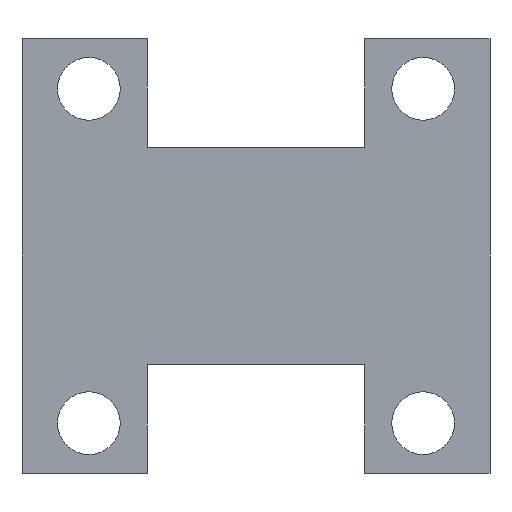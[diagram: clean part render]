
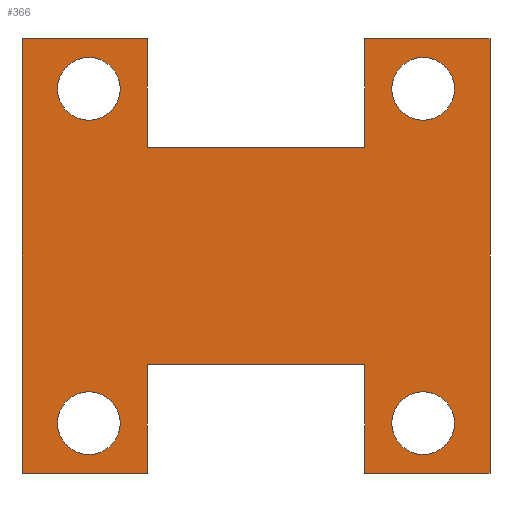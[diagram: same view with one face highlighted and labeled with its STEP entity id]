
A CAD part, front view. The second image highlights one B-rep face of the part: STEP entity #366.
In plain terms, the highlighted planar face has unit normal (0, -1, 0).
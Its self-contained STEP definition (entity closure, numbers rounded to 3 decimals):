
#19=FACE_BOUND('',#75,.T.);
#20=FACE_BOUND('',#76,.T.);
#21=FACE_BOUND('',#77,.T.);
#22=FACE_BOUND('',#78,.T.);
#24=CIRCLE('',#396,1.875);
#26=CIRCLE('',#399,1.875);
#28=CIRCLE('',#407,1.875);
#30=CIRCLE('',#410,1.875);
#52=FACE_OUTER_BOUND('',#74,.T.);
#74=EDGE_LOOP('',(#319,#320,#321,#322,#323,#324,#325,#326,#327,#328,#329,
#330));
#75=EDGE_LOOP('',(#331));
#76=EDGE_LOOP('',(#332));
#77=EDGE_LOOP('',(#333));
#78=EDGE_LOOP('',(#334));
#79=LINE('',#514,#119);
#83=LINE('',#523,#123);
#89=LINE('',#534,#129);
#90=LINE('',#537,#130);
#95=LINE('',#555,#135);
#98=LINE('',#561,#138);
#101=LINE('',#566,#141);
#105=LINE('',#573,#145);
#106=LINE('',#576,#146);
#111=LINE('',#594,#151);
#114=LINE('',#600,#154);
#117=LINE('',#605,#157);
#119=VECTOR('',#420,10.);
#123=VECTOR('',#426,10.);
#129=VECTOR('',#434,10.);
#130=VECTOR('',#437,10.);
#135=VECTOR('',#456,10.);
#138=VECTOR('',#461,10.);
#141=VECTOR('',#466,10.);
#145=VECTOR('',#472,10.);
#146=VECTOR('',#475,10.);
#151=VECTOR('',#494,10.);
#154=VECTOR('',#499,10.);
#157=VECTOR('',#504,10.);
#159=VERTEX_POINT('',#512);
#160=VERTEX_POINT('',#513);
#163=VERTEX_POINT('',#521);
#164=VERTEX_POINT('',#522);
#168=VERTEX_POINT('',#532);
#169=VERTEX_POINT('',#536);
#172=VERTEX_POINT('',#544);
#174=VERTEX_POINT('',#550);
#175=VERTEX_POINT('',#554);
#177=VERTEX_POINT('',#560);
#180=VERTEX_POINT('',#571);
#181=VERTEX_POINT('',#575);
#184=VERTEX_POINT('',#583);
#186=VERTEX_POINT('',#589);
#187=VERTEX_POINT('',#593);
#189=VERTEX_POINT('',#599);
#191=EDGE_CURVE('',#159,#160,#79,.T.);
#195=EDGE_CURVE('',#163,#164,#83,.T.);
#201=EDGE_CURVE('',#168,#159,#89,.T.);
#202=EDGE_CURVE('',#164,#169,#90,.T.);
#207=EDGE_CURVE('',#172,#172,#24,.T.);
#210=EDGE_CURVE('',#174,#174,#26,.T.);
#211=EDGE_CURVE('',#175,#168,#95,.T.);
#214=EDGE_CURVE('',#177,#175,#98,.T.);
#217=EDGE_CURVE('',#169,#177,#101,.T.);
#221=EDGE_CURVE('',#180,#163,#105,.T.);
#222=EDGE_CURVE('',#160,#181,#106,.T.);
#227=EDGE_CURVE('',#184,#184,#28,.T.);
#230=EDGE_CURVE('',#186,#186,#30,.T.);
#231=EDGE_CURVE('',#187,#180,#111,.T.);
#234=EDGE_CURVE('',#189,#187,#114,.T.);
#237=EDGE_CURVE('',#181,#189,#117,.T.);
#319=ORIENTED_EDGE('',*,*,#221,.F.);
#320=ORIENTED_EDGE('',*,*,#231,.F.);
#321=ORIENTED_EDGE('',*,*,#234,.F.);
#322=ORIENTED_EDGE('',*,*,#237,.F.);
#323=ORIENTED_EDGE('',*,*,#222,.F.);
#324=ORIENTED_EDGE('',*,*,#191,.F.);
#325=ORIENTED_EDGE('',*,*,#201,.F.);
#326=ORIENTED_EDGE('',*,*,#211,.F.);
#327=ORIENTED_EDGE('',*,*,#214,.F.);
#328=ORIENTED_EDGE('',*,*,#217,.F.);
#329=ORIENTED_EDGE('',*,*,#202,.F.);
#330=ORIENTED_EDGE('',*,*,#195,.F.);
#331=ORIENTED_EDGE('',*,*,#207,.F.);
#332=ORIENTED_EDGE('',*,*,#210,.F.);
#333=ORIENTED_EDGE('',*,*,#230,.F.);
#334=ORIENTED_EDGE('',*,*,#227,.F.);
#348=PLANE('',#415);
#366=ADVANCED_FACE('',(#52,#19,#20,#21,#22),#348,.F.);
#396=AXIS2_PLACEMENT_3D('',#546,#445,#446);
#399=AXIS2_PLACEMENT_3D('',#552,#452,#453);
#407=AXIS2_PLACEMENT_3D('',#585,#483,#484);
#410=AXIS2_PLACEMENT_3D('',#591,#490,#491);
#415=AXIS2_PLACEMENT_3D('',#608,#508,#509);
#420=DIRECTION('',(1.,0.,0.));
#426=DIRECTION('',(-1.,0.,0.));
#434=DIRECTION('',(0.,0.,-1.));
#437=DIRECTION('',(0.,0.,-1.));
#445=DIRECTION('center_axis',(0.,-1.,0.));
#446=DIRECTION('ref_axis',(1.,0.,0.));
#452=DIRECTION('center_axis',(0.,-1.,0.));
#453=DIRECTION('ref_axis',(1.,0.,0.));
#456=DIRECTION('',(1.,0.,0.));
#461=DIRECTION('',(0.,0.,1.));
#466=DIRECTION('',(-1.,0.,0.));
#472=DIRECTION('',(0.,0.,1.));
#475=DIRECTION('',(0.,0.,1.));
#483=DIRECTION('center_axis',(0.,-1.,0.));
#484=DIRECTION('ref_axis',(1.,0.,0.));
#490=DIRECTION('center_axis',(0.,-1.,0.));
#491=DIRECTION('ref_axis',(1.,0.,0.));
#494=DIRECTION('',(-1.,0.,0.));
#499=DIRECTION('',(0.,0.,-1.));
#504=DIRECTION('',(1.,0.,0.));
#508=DIRECTION('center_axis',(0.,1.,0.));
#509=DIRECTION('ref_axis',(0.,0.,1.));
#512=CARTESIAN_POINT('',(-6.5,0.,6.5));
#513=CARTESIAN_POINT('',(6.5,0.,6.5));
#514=CARTESIAN_POINT('',(-6.5,0.,6.5));
#521=CARTESIAN_POINT('',(6.5,0.,-6.5));
#522=CARTESIAN_POINT('',(-6.5,0.,-6.5));
#523=CARTESIAN_POINT('',(6.5,0.,-6.5));
#532=CARTESIAN_POINT('',(-6.5,0.,13.));
#534=CARTESIAN_POINT('',(-6.5,0.,13.));
#536=CARTESIAN_POINT('',(-6.5,0.,-13.));
#537=CARTESIAN_POINT('',(-6.5,0.,13.));
#544=CARTESIAN_POINT('',(-11.875,0.,-10.));
#546=CARTESIAN_POINT('Origin',(-10.,0.,-10.));
#550=CARTESIAN_POINT('',(-11.875,0.,10.));
#552=CARTESIAN_POINT('Origin',(-10.,0.,10.));
#554=CARTESIAN_POINT('',(-14.,0.,13.));
#555=CARTESIAN_POINT('',(-14.,0.,13.));
#560=CARTESIAN_POINT('',(-14.,0.,-13.));
#561=CARTESIAN_POINT('',(-14.,0.,-13.));
#566=CARTESIAN_POINT('',(14.,0.,-13.));
#571=CARTESIAN_POINT('',(6.5,0.,-13.));
#573=CARTESIAN_POINT('',(6.5,0.,-13.));
#575=CARTESIAN_POINT('',(6.5,0.,13.));
#576=CARTESIAN_POINT('',(6.5,0.,-13.));
#583=CARTESIAN_POINT('',(8.125,0.,-10.));
#585=CARTESIAN_POINT('Origin',(10.,0.,-10.));
#589=CARTESIAN_POINT('',(8.125,0.,10.));
#591=CARTESIAN_POINT('Origin',(10.,0.,10.));
#593=CARTESIAN_POINT('',(14.,0.,-13.));
#594=CARTESIAN_POINT('',(14.,0.,-13.));
#599=CARTESIAN_POINT('',(14.,0.,13.));
#600=CARTESIAN_POINT('',(14.,0.,13.));
#605=CARTESIAN_POINT('',(-14.,0.,13.));
#608=CARTESIAN_POINT('Origin',(10.25,0.,0.));
